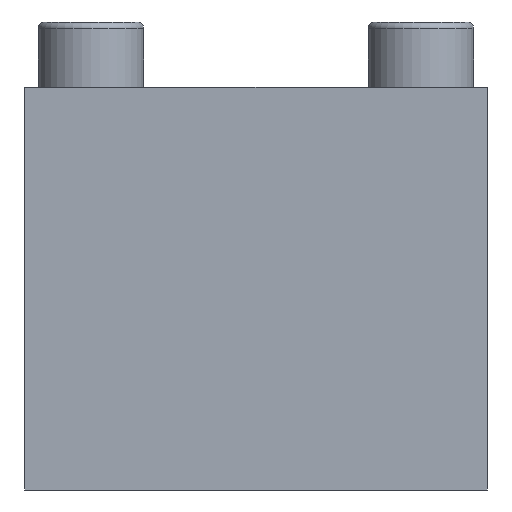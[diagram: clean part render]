
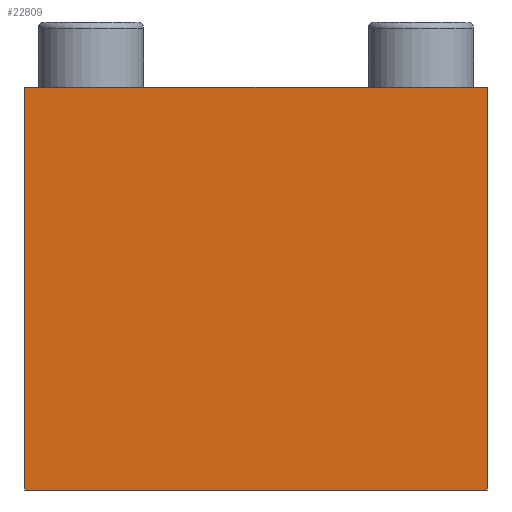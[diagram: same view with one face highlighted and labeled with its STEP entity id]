
A CAD part, front view. The second image highlights one B-rep face of the part: STEP entity #22809.
In plain terms, the highlighted planar face has unit normal (0, -1, 0).
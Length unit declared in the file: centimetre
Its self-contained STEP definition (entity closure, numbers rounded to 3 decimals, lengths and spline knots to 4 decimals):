
#2377=FACE_OUTER_BOUND('',#3593,.T.);
#3593=EDGE_LOOP('',(#15465,#15466,#15467,#15468));
#4953=LINE('',#29434,#7485);
#4957=LINE('',#29443,#7489);
#4958=LINE('',#29444,#7490);
#4959=LINE('',#29445,#7491);
#7485=VECTOR('',#24991,6.1);
#7489=VECTOR('',#24997,6.1);
#7490=VECTOR('',#24998,7.);
#7491=VECTOR('',#24999,7.);
#10059=VERTEX_POINT('',#29432);
#10060=VERTEX_POINT('',#29433);
#10063=VERTEX_POINT('',#29441);
#10064=VERTEX_POINT('',#29442);
#12225=EDGE_CURVE('',#10059,#10060,#4953,.T.);
#12229=EDGE_CURVE('',#10063,#10064,#4957,.T.);
#12230=EDGE_CURVE('',#10059,#10063,#4958,.T.);
#12231=EDGE_CURVE('',#10064,#10060,#4959,.T.);
#15465=ORIENTED_EDGE('',*,*,#12229,.F.);
#15466=ORIENTED_EDGE('',*,*,#12230,.F.);
#15467=ORIENTED_EDGE('',*,*,#12225,.T.);
#15468=ORIENTED_EDGE('',*,*,#12231,.F.);
#21931=PLANE('',#24029);
#22809=ADVANCED_FACE('',(#2377),#21931,.T.);
#24029=AXIS2_PLACEMENT_3D('',#29440,#24995,#24996);
#24991=DIRECTION('',(0.,0.,-1.));
#24995=DIRECTION('center_axis',(0.,-1.,0.));
#24996=DIRECTION('ref_axis',(-1.,0.,0.));
#24997=DIRECTION('',(0.,0.,-1.));
#24998=DIRECTION('',(1.,0.,0.));
#24999=DIRECTION('',(-1.,0.,0.));
#29432=CARTESIAN_POINT('',(-3.5,-11.,4.85));
#29433=CARTESIAN_POINT('',(-3.5,-11.,-1.25));
#29434=CARTESIAN_POINT('',(-3.5,-11.,0.));
#29440=CARTESIAN_POINT('Origin',(3.5,-11.,3.6));
#29441=CARTESIAN_POINT('',(3.5,-11.,4.85));
#29442=CARTESIAN_POINT('',(3.5,-11.,-1.25));
#29443=CARTESIAN_POINT('',(3.5,-11.,0.));
#29444=CARTESIAN_POINT('',(3.5,-11.,4.85));
#29445=CARTESIAN_POINT('',(3.5,-11.,-1.25));
